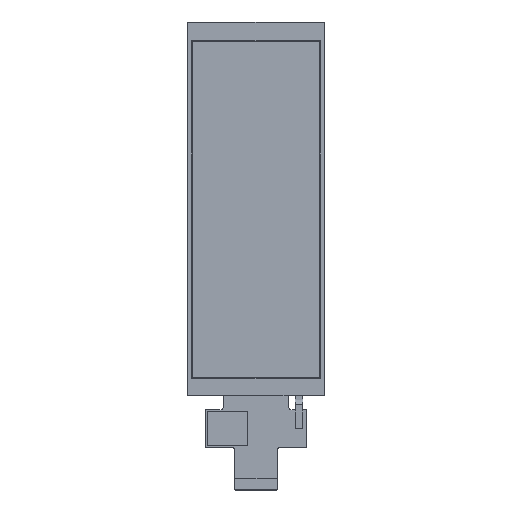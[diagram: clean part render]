
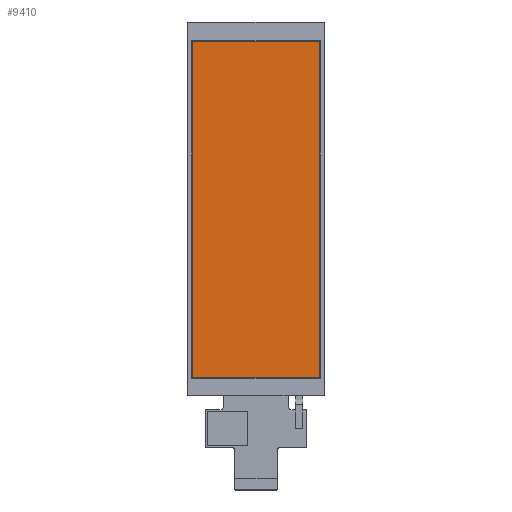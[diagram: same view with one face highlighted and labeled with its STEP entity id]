
A CAD part, top view. The second image highlights one B-rep face of the part: STEP entity #9410.
In plain terms, the highlighted planar face has unit normal (0, 0, 1).
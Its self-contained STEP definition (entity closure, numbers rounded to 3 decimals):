
#70 = VECTOR ( 'NONE', #1178, 1000. ) ;
#219 = VECTOR ( 'NONE', #3689, 1000. ) ;
#290 = CARTESIAN_POINT ( 'NONE',  ( 2.054, 171.355, 0.011 ) ) ;
#1178 = DIRECTION ( 'NONE',  ( 0., 1., 0. ) ) ;
#1366 = EDGE_CURVE ( 'NONE', #12450, #9280, #10809, .T. ) ;
#1511 = ORIENTED_EDGE ( 'NONE', *, *, #11210, .F. ) ;
#1534 = EDGE_CURVE ( 'NONE', #6935, #12450, #11737, .T. ) ;
#1889 = CARTESIAN_POINT ( 'NONE',  ( 64.046, 8.043, 0.011 ) ) ;
#1973 = PLANE ( 'NONE',  #11149 ) ;
#2178 = EDGE_LOOP ( 'NONE', ( #8301, #10780, #1511, #8615 ) ) ;
#3689 = DIRECTION ( 'NONE',  ( 1., 0., 0. ) ) ;
#3761 = LINE ( 'NONE', #4662, #219 ) ;
#4662 = CARTESIAN_POINT ( 'NONE',  ( 2.054, 171.355, 0.011 ) ) ;
#4859 = DIRECTION ( 'NONE',  ( -1., 0., 0. ) ) ;
#5203 = DIRECTION ( 'NONE',  ( 0., 0., 1. ) ) ;
#5836 = CARTESIAN_POINT ( 'NONE',  ( 2.054, 8.043, 0.011 ) ) ;
#6505 = CARTESIAN_POINT ( 'NONE',  ( 64.046, 8.043, 0.011 ) ) ;
#6931 = CARTESIAN_POINT ( 'NONE',  ( 64.046, 171.355, 0.011 ) ) ;
#6935 = VERTEX_POINT ( 'NONE', #7781 ) ;
#6946 = EDGE_CURVE ( 'NONE', #9280, #9904, #10785, .T. ) ;
#7781 = CARTESIAN_POINT ( 'NONE',  ( 64.046, 171.355, 0.011 ) ) ;
#8301 = ORIENTED_EDGE ( 'NONE', *, *, #1366, .F. ) ;
#8514 = VECTOR ( 'NONE', #12650, 1000. ) ;
#8615 = ORIENTED_EDGE ( 'NONE', *, *, #6946, .F. ) ;
#9280 = VERTEX_POINT ( 'NONE', #11599 ) ;
#9410 = ADVANCED_FACE ( 'NONE', ( #9972 ), #1973, .T. ) ;
#9904 = VERTEX_POINT ( 'NONE', #290 ) ;
#9967 = VECTOR ( 'NONE', #4859, 1000. ) ;
#9972 = FACE_OUTER_BOUND ( 'NONE', #2178, .T. ) ;
#10780 = ORIENTED_EDGE ( 'NONE', *, *, #1534, .F. ) ;
#10785 = LINE ( 'NONE', #5836, #70 ) ;
#10809 = LINE ( 'NONE', #1889, #9967 ) ;
#11020 = DIRECTION ( 'NONE',  ( 1., 0., 0. ) ) ;
#11076 = CARTESIAN_POINT ( 'NONE',  ( -558.876, -414.802, 0.011 ) ) ;
#11149 = AXIS2_PLACEMENT_3D ( 'NONE', #11076, #5203, #11020 ) ;
#11210 = EDGE_CURVE ( 'NONE', #9904, #6935, #3761, .T. ) ;
#11599 = CARTESIAN_POINT ( 'NONE',  ( 2.054, 8.043, 0.011 ) ) ;
#11737 = LINE ( 'NONE', #6931, #8514 ) ;
#12450 = VERTEX_POINT ( 'NONE', #6505 ) ;
#12650 = DIRECTION ( 'NONE',  ( 0., -1., 0. ) ) ;
